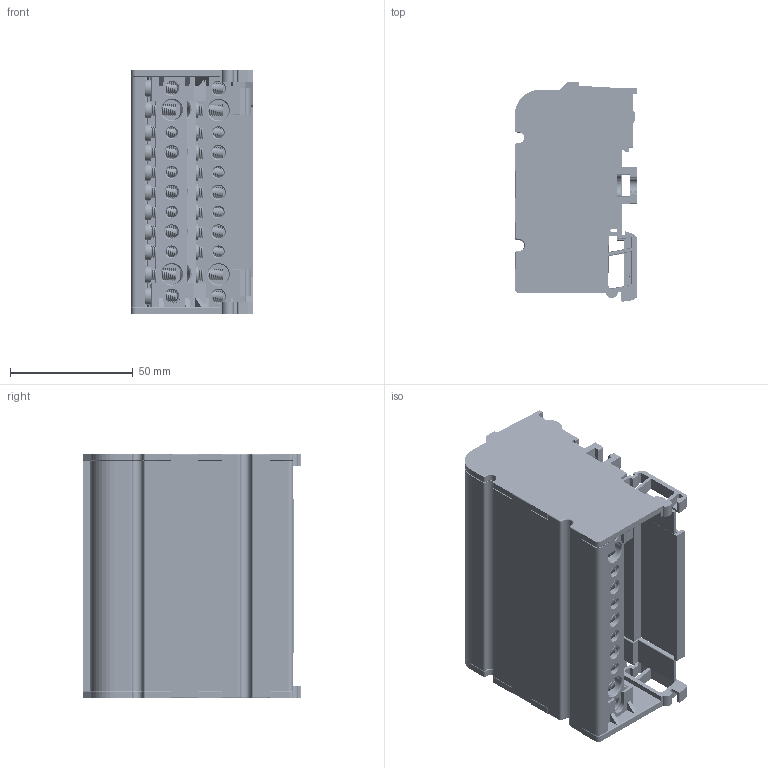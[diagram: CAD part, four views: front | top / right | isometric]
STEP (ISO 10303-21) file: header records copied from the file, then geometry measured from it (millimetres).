
FILE_DESCRIPTION(/* description */ (''),/* implementation_level */ '2;1');
FILE_NAME(/* name */ 'd_stp.stp',/* time_stamp */ '2021-12-02T11:05:04+08:00',/* author */ (''),/* organization */ (''),/* preprocessor_version */ 'ST-DEVELOPER v16',/* originating_system */ 'SIEMENS PLM Software NX 10.0',/* authorisation */ '');
FILE_SCHEMA (('AUTOMOTIVE_DESIGN { 1 0 10303 214 3 1 1 1 }'));
Products named in the file (1): Admi1710B0B8gvij
Bounding box: 49.75 x 89.22 x 99.8 mm (x, y, z)
Volume: 100800.4 mm3; surface area: 122862.4 mm2
Topology: 56 solids, 56 shells, 3814 faces, 10170 edges, 6624 vertices
Faces by surface type: plane 1672, cylinder 990, bspline 778, cone 190, torus 154, sphere 30
Full cylindrical faces by diameter (mm): 4.4 x16, 5.2 x4, 5.4 x20, 6.8 x44, 8.4 x8
Entity records: 516174 total; most frequent: CARTESIAN_POINT 431532, ORIENTED_EDGE 19512, DIRECTION 13368, EDGE_CURVE 9756, VERTEX_POINT 6472, AXIS2_PLACEMENT_3D 4610, EDGE_LOOP 4432, LINE 4148
